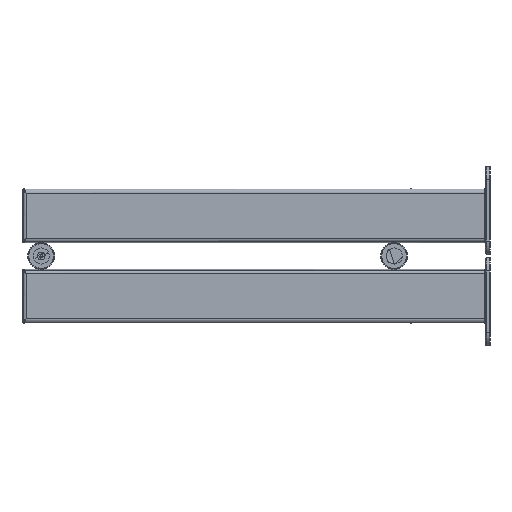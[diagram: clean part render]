
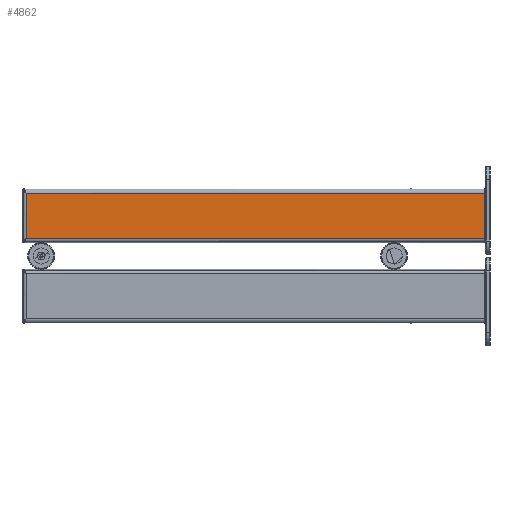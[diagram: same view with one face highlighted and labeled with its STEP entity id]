
A CAD part, left-side view. The second image highlights one B-rep face of the part: STEP entity #4862.
In plain terms, the highlighted planar face has unit normal (-1, 0, 0) as drawn and (0, 0, -1) by its records, which use the part's own axes.
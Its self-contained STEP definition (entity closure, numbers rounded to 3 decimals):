
#190 = PLANE ( 'NONE',  #15885 ) ;
#285 = ORIENTED_EDGE ( 'NONE', *, *, #22953, .T. ) ;
#871 = CARTESIAN_POINT ( 'NONE',  ( -29.5, -578., -5.5 ) ) ;
#1908 = CARTESIAN_POINT ( 'NONE',  ( 29.5, -560., -5.5 ) ) ;
#2349 = DIRECTION ( 'NONE',  ( 1., 0., 0. ) ) ;
#4429 = EDGE_CURVE ( 'NONE', #26064, #5494, #5793, .T. ) ;
#4862 = ADVANCED_FACE ( 'NONE', ( #14558 ), #190, .T. ) ;
#5494 = VERTEX_POINT ( 'NONE', #13861 ) ;
#5793 = LINE ( 'NONE', #1908, #11192 ) ;
#6195 = EDGE_CURVE ( 'NONE', #18762, #13066, #15090, .T. ) ;
#7034 = CARTESIAN_POINT ( 'NONE',  ( -29.5, -560., -5.5 ) ) ;
#7174 = DIRECTION ( 'NONE',  ( -1., 0., 0. ) ) ;
#7437 = LINE ( 'NONE', #871, #10860 ) ;
#8639 = ORIENTED_EDGE ( 'NONE', *, *, #6195, .T. ) ;
#9179 = DIRECTION ( 'NONE',  ( 0., 1., 0. ) ) ;
#10860 = VECTOR ( 'NONE', #7174, 1000. ) ;
#11192 = VECTOR ( 'NONE', #23951, 1000. ) ;
#12817 = CARTESIAN_POINT ( 'NONE',  ( -35., 19.55, -5.5 ) ) ;
#13066 = VERTEX_POINT ( 'NONE', #18168 ) ;
#13617 = CARTESIAN_POINT ( 'NONE',  ( -29.5, -578., -5.5 ) ) ;
#13861 = CARTESIAN_POINT ( 'NONE',  ( 29.5, 19.55, -5.5 ) ) ;
#14213 = ORIENTED_EDGE ( 'NONE', *, *, #4429, .F. ) ;
#14290 = DIRECTION ( 'NONE',  ( -1., 0., 0. ) ) ;
#14558 = FACE_OUTER_BOUND ( 'NONE', #18892, .T. ) ;
#14691 = CARTESIAN_POINT ( 'NONE',  ( -29.5, -560., -5.5 ) ) ;
#15090 = LINE ( 'NONE', #7034, #20217 ) ;
#15885 = AXIS2_PLACEMENT_3D ( 'NONE', #14691, #22751, #14290 ) ;
#16448 = LINE ( 'NONE', #12817, #25019 ) ;
#16737 = EDGE_CURVE ( 'NONE', #13066, #5494, #16448, .T. ) ;
#18168 = CARTESIAN_POINT ( 'NONE',  ( -29.5, 19.55, -5.5 ) ) ;
#18762 = VERTEX_POINT ( 'NONE', #13617 ) ;
#18892 = EDGE_LOOP ( 'NONE', ( #14213, #285, #8639, #21889 ) ) ;
#20217 = VECTOR ( 'NONE', #9179, 1000. ) ;
#21889 = ORIENTED_EDGE ( 'NONE', *, *, #16737, .T. ) ;
#22751 = DIRECTION ( 'NONE',  ( 0., 0., -1. ) ) ;
#22953 = EDGE_CURVE ( 'NONE', #26064, #18762, #7437, .T. ) ;
#23951 = DIRECTION ( 'NONE',  ( 0., 1., 0. ) ) ;
#25019 = VECTOR ( 'NONE', #2349, 1000. ) ;
#26061 = CARTESIAN_POINT ( 'NONE',  ( 29.5, -578., -5.5 ) ) ;
#26064 = VERTEX_POINT ( 'NONE', #26061 ) ;
